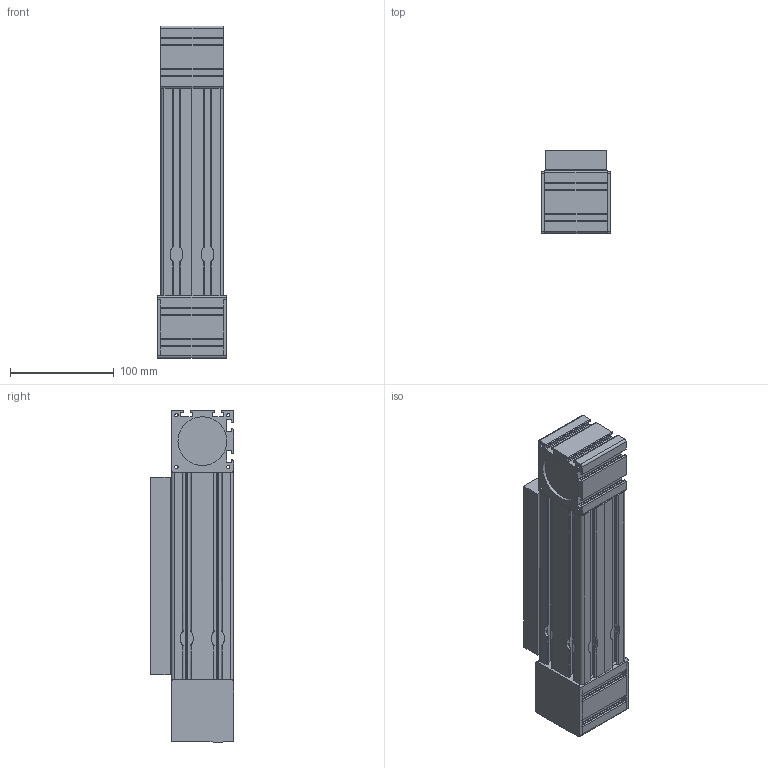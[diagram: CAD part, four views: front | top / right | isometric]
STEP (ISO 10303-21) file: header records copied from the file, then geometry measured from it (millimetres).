
FILE_DESCRIPTION (( 'STEP AP203' ), '1' );
FILE_NAME ('ML60HPCL-12-.STEP', '2023-03-23T08:25:17', ( '' ), ( '' ), 'SwSTEP 2.0', 'SolidWorks 2019', '' );
FILE_SCHEMA (( 'CONFIG_CONTROL_DESIGN' ));
Length unit declared in the file: millimetre
Products named in the file (5): TR60HPC-12; ML60HPCL-12-; CR60HPC-12; TM60HPC-12; PR60HPC-
Assembly tree (4 placements, depth 2):
  ML60HPCL-12-
    CR60HPC-12
    TR60HPC-12
    TM60HPC-12
    PR60HPC-
Bounding box: 66 x 80 x 320 mm (x, y, z)
Volume: 1235380.2 mm3; surface area: 173445.4 mm2
Topology: 4 solids, 4 shells, 475 faces, 1335 edges, 870 vertices
Faces by surface type: cylinder 248, plane 211, cone 16
Full cylindrical faces by diameter (mm): 3.2 x4, 3.242 x8, 4.134 x8, 47 x2
Entity records: 17415 total; most frequent: CARTESIAN_POINT 4690, ORIENTED_EDGE 2570, DIRECTION 2545, EDGE_CURVE 1285, AXIS2_PLACEMENT_3D 874, VERTEX_POINT 858, VECTOR 797, LINE 797
